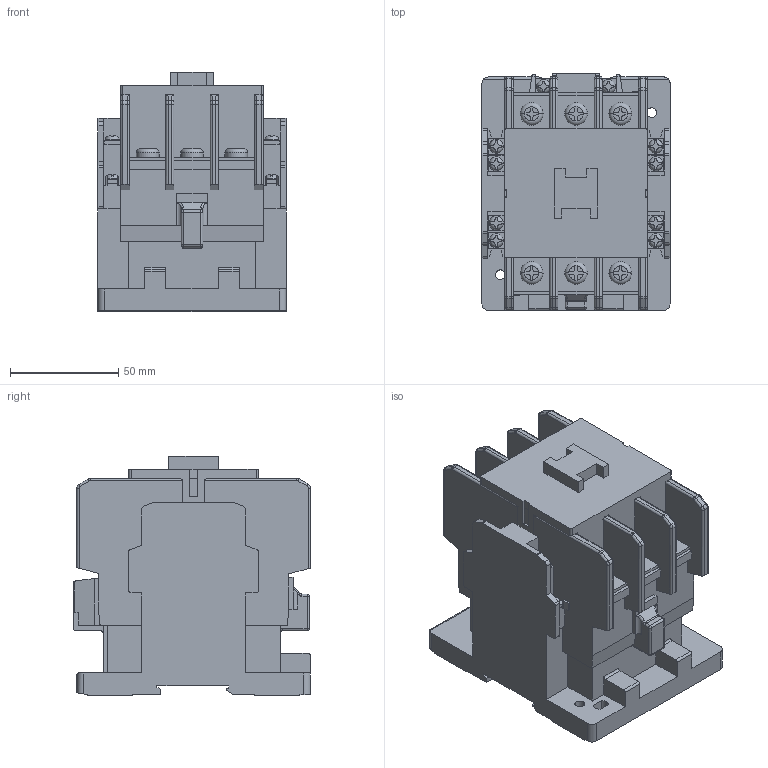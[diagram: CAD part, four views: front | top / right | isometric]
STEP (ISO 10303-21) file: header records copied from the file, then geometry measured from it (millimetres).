
FILE_DESCRIPTION (( 'STEP AP214' ), '1' );
FILE_NAME ('SC-N2S.STEP', '2014-03-24T11:10:52', ( '川崎工場' ), ( '富士電機システムズ株式会社' ), 'SwSTEP 2.0', 'SolidWorks 2005204', '' );
FILE_SCHEMA (( 'AUTOMOTIVE_DESIGN' ));
Length unit declared in the file: millimetre
Products named in the file (7): SC-N2S_Case_asm_蹬怮椔; SC-N2S_Case_cover_蹬怮椔; SC-N2S; Screw_M3.5_L7_端子板付_a; SC-N2S_Case_蹬怮椔; SC-N2S_Plate_M6_蹬怮椔; Screw_M6_L14_蹬怮椔
Assembly tree (25 placements, depth 3):
  SC-N2S
    Screw_M6_L14_蹬怮椔  x6
    SC-N2S_Case_asm_蹬怮椔
      SC-N2S_Plate_M6_蹬怮椔  x6
      Screw_M3.5_L7_端子板付_a  x10
      SC-N2S_Case_蹬怮椔
      SC-N2S_Case_cover_蹬怮椔
Bounding box: 87 x 109.5 x 110.7 mm (x, y, z)
Volume: 662811.8 mm3; surface area: 103533.1 mm2
Topology: 24 solids, 24 shells, 1113 faces, 2944 edges, 1914 vertices
Faces by surface type: plane 721, cylinder 298, torus 68, cone 20, sphere 4, bspline 2
Entity records: 23507 total; most frequent: CARTESIAN_POINT 4607, ORIENTED_EDGE 3572, DIRECTION 3494, EDGE_CURVE 1786, VECTOR 1316, LINE 1316, VERTEX_POINT 1154, AXIS2_PLACEMENT_3D 1089
